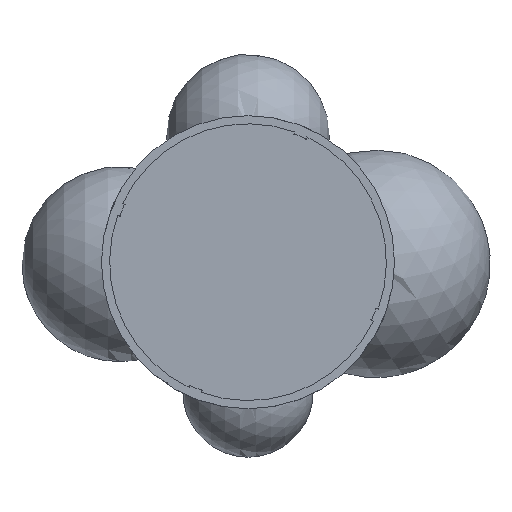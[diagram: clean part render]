
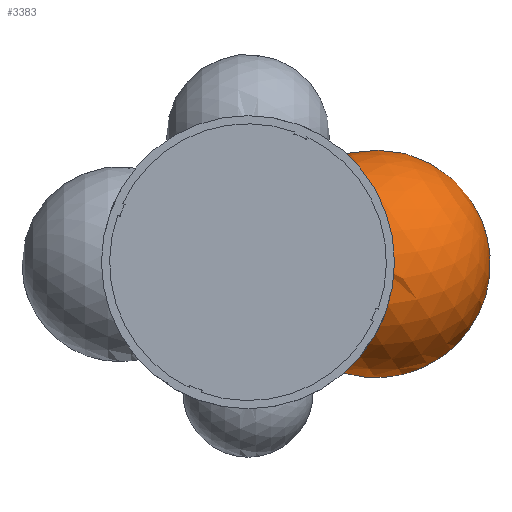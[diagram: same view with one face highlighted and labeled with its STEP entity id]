
A CAD part, top view. The second image highlights one B-rep face of the part: STEP entity #3383.
In plain terms, the highlighted spherical face has radius 175 mm.
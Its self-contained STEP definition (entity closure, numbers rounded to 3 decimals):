
#91=SPHERICAL_SURFACE('',#3700,175.);
#173=FACE_BOUND('',#638,.T.);
#385=FACE_OUTER_BOUND('',#637,.T.);
#637=EDGE_LOOP('',(#2446,#2447));
#638=EDGE_LOOP('',(#2448));
#1256=CIRCLE('',#3698,14.495);
#1257=CIRCLE('',#3701,175.);
#1538=VERTEX_POINT('',#5583);
#1539=VERTEX_POINT('',#5588);
#1540=VERTEX_POINT('',#5589);
#1896=EDGE_CURVE('',#1538,#1538,#1256,.T.);
#1898=EDGE_CURVE('',#1539,#1540,#1257,.T.);
#2446=ORIENTED_EDGE('',*,*,#1898,.T.);
#2447=ORIENTED_EDGE('',*,*,#1898,.F.);
#2448=ORIENTED_EDGE('',*,*,#1896,.F.);
#3383=ADVANCED_FACE('',(#385,#173),#91,.T.);
#3698=AXIS2_PLACEMENT_3D('',#5584,#4330,#4331);
#3700=AXIS2_PLACEMENT_3D('',#5587,#4335,#4336);
#3701=AXIS2_PLACEMENT_3D('',#5590,#4337,#4338);
#4330=DIRECTION('center_axis',(0.,0.,
1.));
#4331=DIRECTION('ref_axis',(-0.559,0.829,0.));
#4335=DIRECTION('center_axis',(0.829,0.559,0.));
#4336=DIRECTION('ref_axis',(-0.559,0.829,0.));
#4337=DIRECTION('center_axis',(0.,0.,
-1.));
#4338=DIRECTION('ref_axis',(0.559,-0.829,0.));
#5583=CARTESIAN_POINT('',(205.098,-12.023,798.59));
#5584=CARTESIAN_POINT('Origin',(197.,0.,
798.59));
#5587=CARTESIAN_POINT('Origin',(197.,0.,624.192));
#5588=CARTESIAN_POINT('',(342.147,97.761,624.192));
#5589=CARTESIAN_POINT('',(51.853,-97.761,624.192));
#5590=CARTESIAN_POINT('Origin',(197.,0.,624.192));
